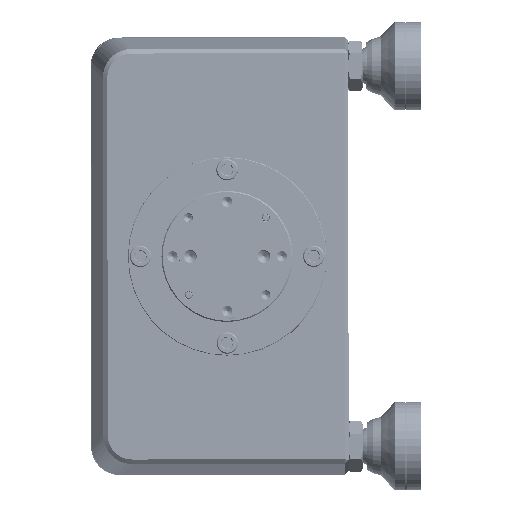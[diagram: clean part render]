
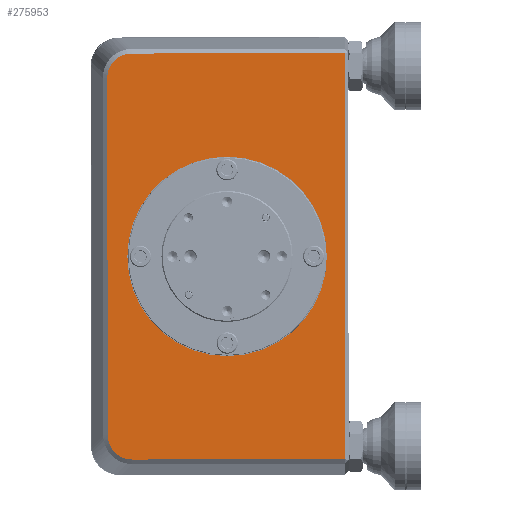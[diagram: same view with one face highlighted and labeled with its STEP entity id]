
A CAD part, left-side view. The second image highlights one B-rep face of the part: STEP entity #275953.
In plain terms, the highlighted planar face has unit normal (-1, -0.002, -0.001).
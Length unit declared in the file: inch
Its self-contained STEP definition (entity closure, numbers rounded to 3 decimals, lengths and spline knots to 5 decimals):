
#3690 = CARTESIAN_POINT ( 'NONE',  ( -0.09419, -6.3638, -2.84929 ) ) ;
#10763 = CARTESIAN_POINT ( 'NONE',  ( -0.09089, -8.39914, -3.05557 ) ) ;
#11195 = CARTESIAN_POINT ( 'NONE',  ( -0.09419, -6.3638, -2.84929 ) ) ;
#14460 = ORIENTED_EDGE ( 'NONE', *, *, #281655, .F. ) ;
#16701 = LINE ( 'NONE', #288670, #281176 ) ;
#18740 = CARTESIAN_POINT ( 'NONE',  ( -0.09556, -6.56848, 0.42222 ) ) ;
#19235 = CARTESIAN_POINT ( 'NONE',  ( -0.09338, -7.38689, -1.3168 ) ) ;
#29656 = CIRCLE ( 'NONE', #127908, 0.855 ) ;
#31243 = B_SPLINE_CURVE_WITH_KNOTS ( 'NONE', 3,
 ( #71090, #124514, #95401, #147193, #145614, #169988, #96975, #121336, #122923, #197427 ),
 .UNSPECIFIED., .F., .F.,
 ( 4, 2, 2, 2, 4 ),
 ( 0., 0.25, 0.5, 0.75, 1. ),
 .UNSPECIFIED. ) ;
#31977 = DIRECTION ( 'NONE',  ( -1., -0.002, -0.001 ) ) ;
#34289 = CARTESIAN_POINT ( 'NONE',  ( -0.09384, -6.51799, -3.05258 ) ) ;
#35093 = EDGE_CURVE ( 'NONE', #256012, #233820, #69755, .T. ) ;
#46626 = EDGE_CURVE ( 'NONE', #292845, #127229, #16701, .T. ) ;
#48061 = AXIS2_PLACEMENT_3D ( 'NONE', #234338, #31977, #133947 ) ;
#48834 = DIRECTION ( 'NONE',  ( 0.001, -0.001, -1. ) ) ;
#49792 = DIRECTION ( 'NONE',  ( -1., -0.002, -0.001 ) ) ;
#50087 = CARTESIAN_POINT ( 'NONE',  ( -0.09375, -6.57299, -3.05793 ) ) ;
#50622 = EDGE_CURVE ( 'NONE', #97161, #100071, #29656, .T. ) ;
#52034 = ORIENTED_EDGE ( 'NONE', *, *, #300566, .T. ) ;
#55381 = CARTESIAN_POINT ( 'NONE',  ( -0.09397, -6.44424, -3.01638 ) ) ;
#58213 = EDGE_LOOP ( 'NONE', ( #241928, #179734, #60440, #52034, #114409, #190040 ) ) ;
#58910 = CARTESIAN_POINT ( 'NONE',  ( -0.09271, -8.39463, 0.42459 ) ) ;
#60440 = ORIENTED_EDGE ( 'NONE', *, *, #35093, .T. ) ;
#60680 = AXIS2_PLACEMENT_3D ( 'NONE', #190841, #263580, #316977 ) ;
#62749 = EDGE_CURVE ( 'NONE', #127229, #216232, #93881, .T. ) ;
#67524 = CARTESIAN_POINT ( 'NONE',  ( -0.09578, -6.35983, 0.21303 ) ) ;
#69339 = DIRECTION ( 'NONE',  ( -0.001, 0.001, 1. ) ) ;
#69755 = LINE ( 'NONE', #312710, #264888 ) ;
#71090 = CARTESIAN_POINT ( 'NONE',  ( -0.09556, -6.56848, 0.42222 ) ) ;
#76557 = LINE ( 'NONE', #175407, #206322 ) ;
#82455 = CARTESIAN_POINT ( 'NONE',  ( -0.09382, -7.38578, -0.4618 ) ) ;
#93881 = B_SPLINE_CURVE_WITH_KNOTS ( 'NONE', 3,
 ( #3690, #201237, #301610, #178582, #107199, #55381, #304784, #34289, #280430, #278839 ),
 .UNSPECIFIED., .F., .F.,
 ( 4, 2, 2, 2, 4 ),
 ( 0., 0.25, 0.5, 0.75, 1. ),
 .UNSPECIFIED. ) ;
#95401 = CARTESIAN_POINT ( 'NONE',  ( -0.09564, -6.5135, 0.41671 ) ) ;
#95816 = EDGE_LOOP ( 'NONE', ( #241927, #14460 ) ) ;
#96975 = CARTESIAN_POINT ( 'NONE',  ( -0.09579, -6.38593, 0.31852 ) ) ;
#97161 = VERTEX_POINT ( 'NONE', #82455 ) ;
#100071 = VERTEX_POINT ( 'NONE', #314326 ) ;
#105008 = CIRCLE ( 'NONE', #48061, 0.855 ) ;
#107199 = CARTESIAN_POINT ( 'NONE',  ( -0.09405, -6.40569, -2.97793 ) ) ;
#114409 = ORIENTED_EDGE ( 'NONE', *, *, #210188, .T. ) ;
#119525 = FACE_OUTER_BOUND ( 'NONE', #58213, .T. ) ;
#121336 = CARTESIAN_POINT ( 'NONE',  ( -0.0958, -6.36519, 0.26802 ) ) ;
#121669 = VECTOR ( 'NONE', #223732, 39.37008 ) ;
#122923 = CARTESIAN_POINT ( 'NONE',  ( -0.09579, -6.35979, 0.24057 ) ) ;
#124514 = CARTESIAN_POINT ( 'NONE',  ( -0.0956, -6.54099, 0.42218 ) ) ;
#127229 = VERTEX_POINT ( 'NONE', #11195 ) ;
#127908 = AXIS2_PLACEMENT_3D ( 'NONE', #19235, #49792, #69339 ) ;
#133947 = DIRECTION ( 'NONE',  ( -0.001, 0.001, 1. ) ) ;
#145614 = CARTESIAN_POINT ( 'NONE',  ( -0.09574, -6.43984, 0.38033 ) ) ;
#147193 = CARTESIAN_POINT ( 'NONE',  ( -0.09571, -6.46305, 0.39585 ) ) ;
#169988 = CARTESIAN_POINT ( 'NONE',  ( -0.09578, -6.40138, 0.34178 ) ) ;
#175407 = CARTESIAN_POINT ( 'NONE',  ( -0.09257, -7.32915, -3.05695 ) ) ;
#178582 = CARTESIAN_POINT ( 'NONE',  ( -0.09409, -6.39017, -2.95471 ) ) ;
#179734 = ORIENTED_EDGE ( 'NONE', *, *, #229878, .T. ) ;
#190040 = ORIENTED_EDGE ( 'NONE', *, *, #46626, .T. ) ;
#190841 = CARTESIAN_POINT ( 'NONE',  ( -0.09347, -7.32689, -1.31688 ) ) ;
#194007 = PLANE ( 'NONE',  #60680 ) ;
#197427 = CARTESIAN_POINT ( 'NONE',  ( -0.09578, -6.35983, 0.21303 ) ) ;
#201237 = CARTESIAN_POINT ( 'NONE',  ( -0.09417, -6.36383, -2.87677 ) ) ;
#206322 = VECTOR ( 'NONE', #304435, 39.37008 ) ;
#210188 = EDGE_CURVE ( 'NONE', #291705, #292845, #31243, .T. ) ;
#216232 = VERTEX_POINT ( 'NONE', #50087 ) ;
#223732 = DIRECTION ( 'NONE',  ( -0.002, 1., -0.001 ) ) ;
#229878 = EDGE_CURVE ( 'NONE', #216232, #256012, #76557, .T. ) ;
#233820 = VERTEX_POINT ( 'NONE', #58910 ) ;
#234338 = CARTESIAN_POINT ( 'NONE',  ( -0.09338, -7.38689, -1.3168 ) ) ;
#241927 = ORIENTED_EDGE ( 'NONE', *, *, #50622, .F. ) ;
#241928 = ORIENTED_EDGE ( 'NONE', *, *, #62749, .T. ) ;
#247981 = CARTESIAN_POINT ( 'NONE',  ( -0.09438, -7.32463, 0.4232 ) ) ;
#256012 = VERTEX_POINT ( 'NONE', #10763 ) ;
#263580 = DIRECTION ( 'NONE',  ( 1., 0.002, 0.001 ) ) ;
#264888 = VECTOR ( 'NONE', #317455, 39.37008 ) ;
#275953 = ADVANCED_FACE ( 'NONE', ( #119525, #315413 ), #194007, .F. ) ;
#278839 = CARTESIAN_POINT ( 'NONE',  ( -0.09375, -6.57299, -3.05793 ) ) ;
#280430 = CARTESIAN_POINT ( 'NONE',  ( -0.09379, -6.54545, -3.05797 ) ) ;
#281176 = VECTOR ( 'NONE', #48834, 39.37008 ) ;
#281655 = EDGE_CURVE ( 'NONE', #100071, #97161, #105008, .T. ) ;
#288670 = CARTESIAN_POINT ( 'NONE',  ( -0.09498, -6.36181, -1.31813 ) ) ;
#291705 = VERTEX_POINT ( 'NONE', #18740 ) ;
#291819 = LINE ( 'NONE', #247981, #121669 ) ;
#292845 = VERTEX_POINT ( 'NONE', #67524 ) ;
#300566 = EDGE_CURVE ( 'NONE', #233820, #291705, #291819, .T. ) ;
#301610 = CARTESIAN_POINT ( 'NONE',  ( -0.09415, -6.36931, -2.90427 ) ) ;
#304435 = DIRECTION ( 'NONE',  ( 0.002, -1., 0.001 ) ) ;
#304784 = CARTESIAN_POINT ( 'NONE',  ( -0.09393, -6.4675, -3.03184 ) ) ;
#312710 = CARTESIAN_POINT ( 'NONE',  ( -0.0918, -8.39689, -1.31549 ) ) ;
#314326 = CARTESIAN_POINT ( 'NONE',  ( -0.09293, -7.388, -2.1718 ) ) ;
#315413 = FACE_BOUND ( 'NONE', #95816, .T. ) ;
#316977 = DIRECTION ( 'NONE',  ( 0.001, -0.001, -1. ) ) ;
#317455 = DIRECTION ( 'NONE',  ( -0.001, 0.001, 1. ) ) ;
